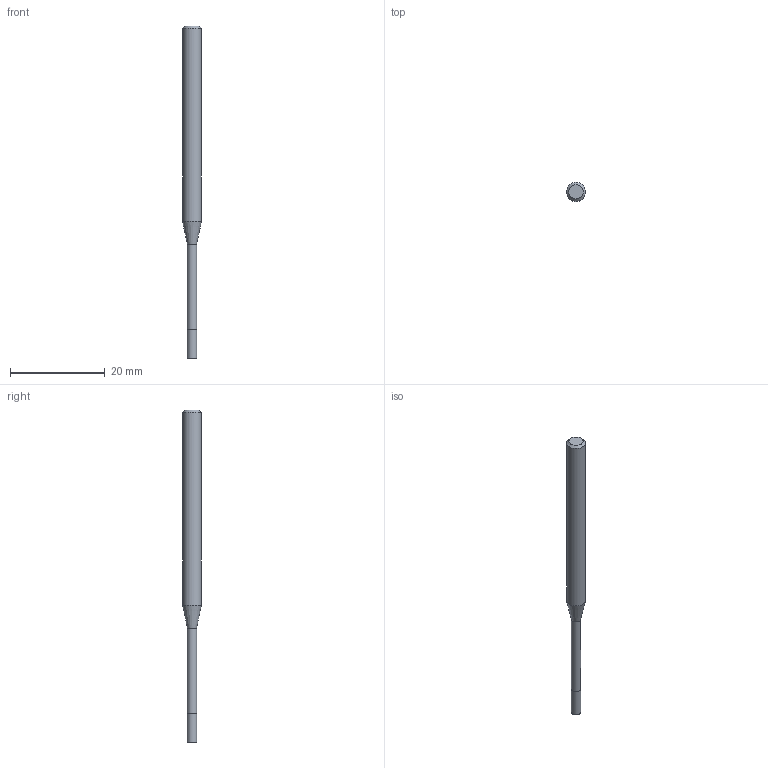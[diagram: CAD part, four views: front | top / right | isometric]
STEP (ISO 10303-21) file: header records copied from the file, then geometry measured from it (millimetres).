
FILE_DESCRIPTION((''),'2;1');
FILE_NAME('C:\Users\nsx150\Desktop\RSE230_20210427\01-00644-02024 RSE230 D2X6X24.step','2021-05-07T14:53:43',(''),(''),'STEP Write','Mastercam 2021 ... CNC Software, Inc.','');
FILE_SCHEMA(('AUTOMOTIVE_DESIGN'));
Length unit declared in the file: millimetre
Products named in the file (1): None
Bounding box: 4 x 4 x 70 mm (x, y, z)
Volume: 622.7 mm3; surface area: 728.6 mm2
Topology: 2 solids, 2 shells, 9 faces, 12 edges, 7 vertices
Faces by surface type: plane 4, cylinder 3, cone 2
Full cylindrical faces by diameter (mm): 1.94 x1, 2 x1, 4 x1
Entity records: 211 total; most frequent: DIRECTION 36, CARTESIAN_POINT 25, AXIS2_PLACEMENT_3D 18, ORIENTED_EDGE 14, EDGE_LOOP 14, STYLED_ITEM 12, ADVANCED_FACE 9, FACE_BOUND 8
